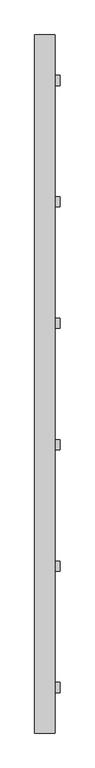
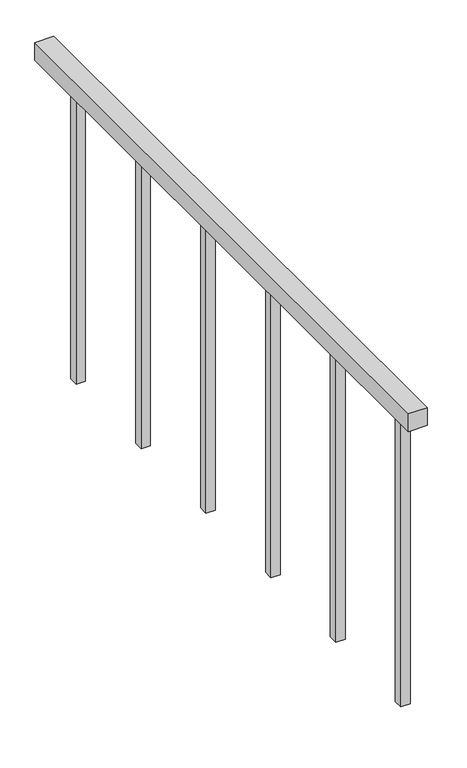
"""IFC4 building model written with IfcOpenShell, lengths in millimetres: railing geometry, ADSK_Стандартное_h 900 Поручень квадратный без направляющих."""

from ifc_helpers import new_model, si_unit, frame, origin, place, context, project, spatial, polyline, outline, extrude, source, transform, mapped, element, save


def railing_70d821ff(model_context):
    return source(origin(), model_context, "Body", "SweptSolid", [
        extrude(outline(polyline([(16858.1708722, 4584.6370105), (16908.1708722, 4584.6370105), (16908.1708722, 2859.5648158), (16858.1708722, 2859.5648158), (16858.1708722, 4584.6370105)])), frame((0.0, 0.0, 4350.0), z_axis=(0.0, 0.0, 1.0), x_axis=(1.0, 0.0, 0.0)), (0.0, 0.0, 1.0), 50.0),
        extrude(outline(polyline([(16895.6708722, 2984.6009131), (16920.6708722, 2984.6009131), (16920.6708722, 2959.6009131), (16895.6708722, 2959.6009131), (16895.6708722, 2984.6009131)])), frame((0.0, 0.0, 3500.0), z_axis=(0.0, 0.0, 1.0), x_axis=(1.0, 0.0, 0.0)), (0.0, 0.0, 1.0), 850.0),
        extrude(outline(polyline([(16895.6708722, 3284.6009131), (16920.6708722, 3284.6009131), (16920.6708722, 3259.6009131), (16895.6708722, 3259.6009131), (16895.6708722, 3284.6009131)])), frame((0.0, 0.0, 3500.0), z_axis=(0.0, 0.0, 1.0), x_axis=(1.0, 0.0, 0.0)), (0.0, 0.0, 1.0), 850.0),
        extrude(outline(polyline([(16895.6708722, 3584.6009131), (16920.6708722, 3584.6009131), (16920.6708722, 3559.6009131), (16895.6708722, 3559.6009131), (16895.6708722, 3584.6009131)])), frame((0.0, 0.0, 3500.0), z_axis=(0.0, 0.0, 1.0), x_axis=(1.0, 0.0, 0.0)), (0.0, 0.0, 1.0), 850.0),
        extrude(outline(polyline([(16895.6708722, 3884.6009131), (16920.6708722, 3884.6009131), (16920.6708722, 3859.6009131), (16895.6708722, 3859.6009131), (16895.6708722, 3884.6009131)])), frame((0.0, 0.0, 3500.0), z_axis=(0.0, 0.0, 1.0), x_axis=(1.0, 0.0, 0.0)), (0.0, 0.0, 1.0), 850.0),
        extrude(outline(polyline([(16895.6708722, 4184.6009131), (16920.6708722, 4184.6009131), (16920.6708722, 4159.6009131), (16895.6708722, 4159.6009131), (16895.6708722, 4184.6009131)])), frame((0.0, 0.0, 3500.0), z_axis=(0.0, 0.0, 1.0), x_axis=(1.0, 0.0, 0.0)), (0.0, 0.0, 1.0), 850.0),
        extrude(outline(polyline([(16895.6708722, 4484.6009131), (16920.6708722, 4484.6009131), (16920.6708722, 4459.6009131), (16895.6708722, 4459.6009131), (16895.6708722, 4484.6009131)])), frame((0.0, 0.0, 3500.0), z_axis=(0.0, 0.0, 1.0), x_axis=(1.0, 0.0, 0.0)), (0.0, 0.0, 1.0), 850.0),
    ])


if __name__ == "__main__":
    model = new_model("IFC4")
    model_context = context("Model", 3, world=origin())
    ifc_project = project(units=[si_unit("LENGTHUNIT", "METRE", prefix="MILLI")], contexts=[model_context])
    site = spatial("IfcSite", under=ifc_project)
    building = spatial("IfcBuilding", under=site)
    placement = place(None, origin())
    railing_shape = railing_70d821ff(model_context)
    element("IfcRailing", 1, ObjectType="ADSK_Стандартное_h 900 Поручень квадратный без направляющих", at=placement, inside=building, context=model_context, shape_type="MappedRepresentation", body=[
        mapped(railing_shape, transform((0.0, 0.0, 0.0), x_axis=(1.0, 0.0, 0.0), y_axis=(0.0, 1.0, 0.0), z_axis=(0.0, 0.0, 1.0))),
    ])
    save(model, "model.ifc")
